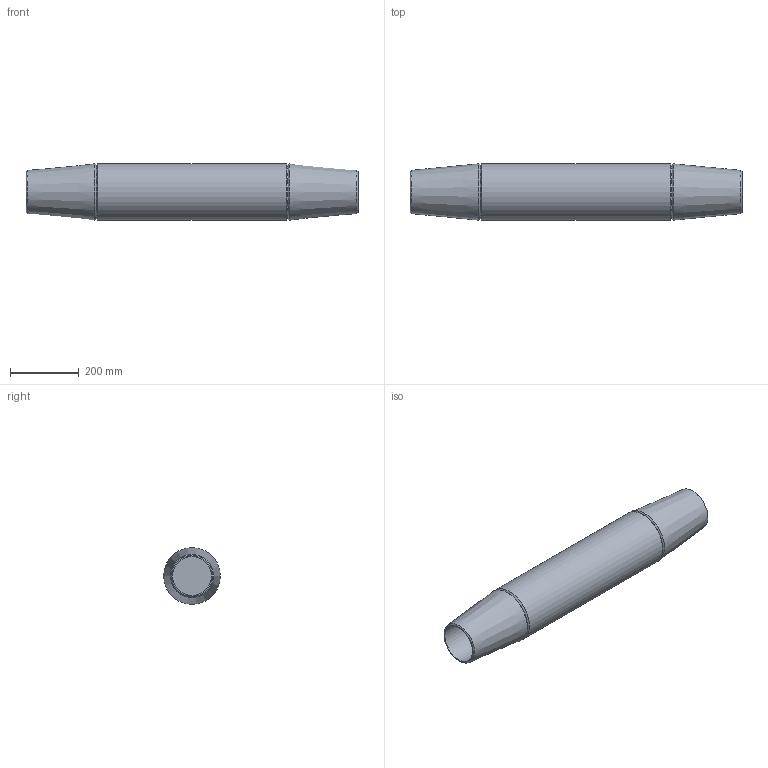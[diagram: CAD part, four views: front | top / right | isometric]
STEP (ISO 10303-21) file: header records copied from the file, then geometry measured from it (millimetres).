
FILE_DESCRIPTION(/* description */ (''),/* implementation_level */ '2;1');
FILE_NAME(/* name */ 'G:\Engineering\700 CAD\Internet-PX-1-step-igs-dxf\520-MUF-Arbeitsdateien\520-110-MUF.stp',/* time_stamp */ '2020-06-30T13:24:56+02:00',/* author */ ('schwarz'),/* organization */ (''),/* preprocessor_version */ 'ST-DEVELOPER v16.1',/* originating_system */ 'Autodesk Inventor 2016',/* authorisation */ '');
FILE_SCHEMA (('AUTOMOTIVE_DESIGN { 1 0 10303 214 3 1 1 }'));
Length unit declared in the file: centimetre
Products named in the file (1): Zusammenbau Muffe 520 110 Kunde
Bounding box: 968 x 165 x 165 mm (x, y, z)
Volume: 15686076.8 mm3; surface area: 611019.5 mm2
Topology: 1 solids, 1 shells, 15 faces, 25 edges, 14 vertices
Faces by surface type: cone 8, plane 4, cylinder 3
Full cylindrical faces by diameter (mm): 114 x2, 165 x1
Entity records: 347 total; most frequent: DIRECTION 60, CARTESIAN_POINT 44, AXIS2_PLACEMENT_3D 30, EDGE_LOOP 28, ORIENTED_EDGE 28, STYLED_ITEM 16, FACE_OUTER_BOUND 15, ADVANCED_FACE 15
